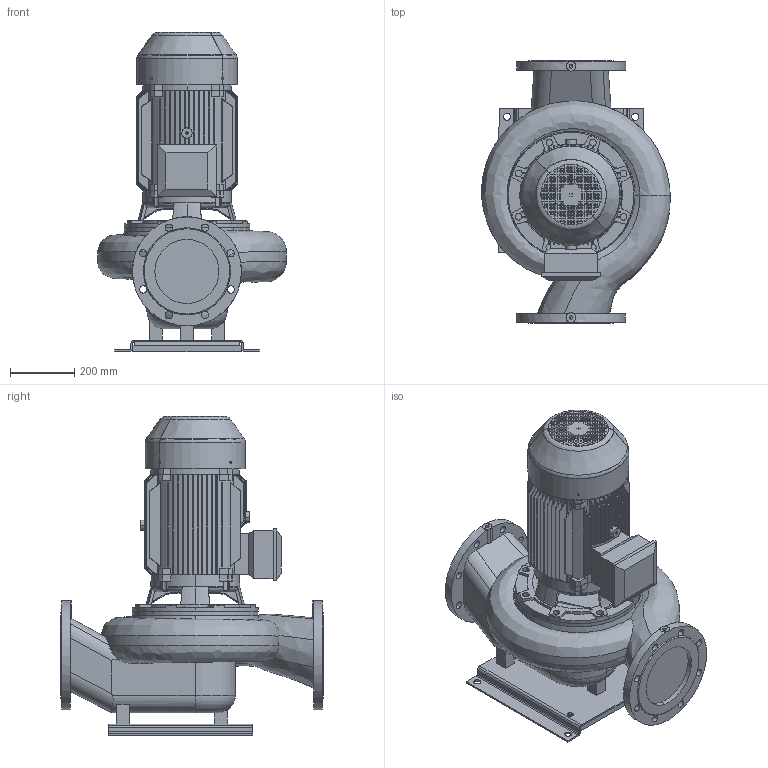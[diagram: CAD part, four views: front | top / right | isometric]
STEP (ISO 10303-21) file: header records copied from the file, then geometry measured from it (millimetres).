
FILE_DESCRIPTION(('STEP AP214'),'1');
FILE_NAME('export.stp','2018-05-28T10:53:58',(' '),(' '),'Spatial InterOp 3D',' ',' ');
FILE_SCHEMA(('AUTOMOTIVE_DESIGN { 1 0 10303 214 1 1 1 1 }'));
Length unit declared in the file: millimetre
Products named in the file (11): W_AL12024150KP166; V_TLL100SAL1202; V_PPAL1202; P100464; P100462; P101191; V_MKP166G2F31; R200366; R200574; R200573; R200587
Assembly tree (11 placements, depth 3):
  W_AL12024150KP166
    V_TLL100SAL1202
    V_PPAL1202
    P100464
      P100462
      P101191  x2
    V_MKP166G2F31
      R200366
      R200574
      R200573
      R200587
Bounding box: 589.11 x 820.22 x 995.5 mm (x, y, z)
Volume: 71090040.6 mm3; surface area: 4809993.1 mm2
Topology: 9 solids, 9 shells, 1899 faces, 5434 edges, 3535 vertices
Faces by surface type: plane 1256, cylinder 372, cone 186, torus 46, bspline 39
Entity records: 99172 total; most frequent: CARTESIAN_POINT 18998, ORIENTED_EDGE 10684, DIRECTION 9491, EDGE_CURVE 5342, STYLED_ITEM 5047, PRESENTATION_STYLE_ASSIGNMENT 5047, COLOUR_RGB 5047, LINE 3509
